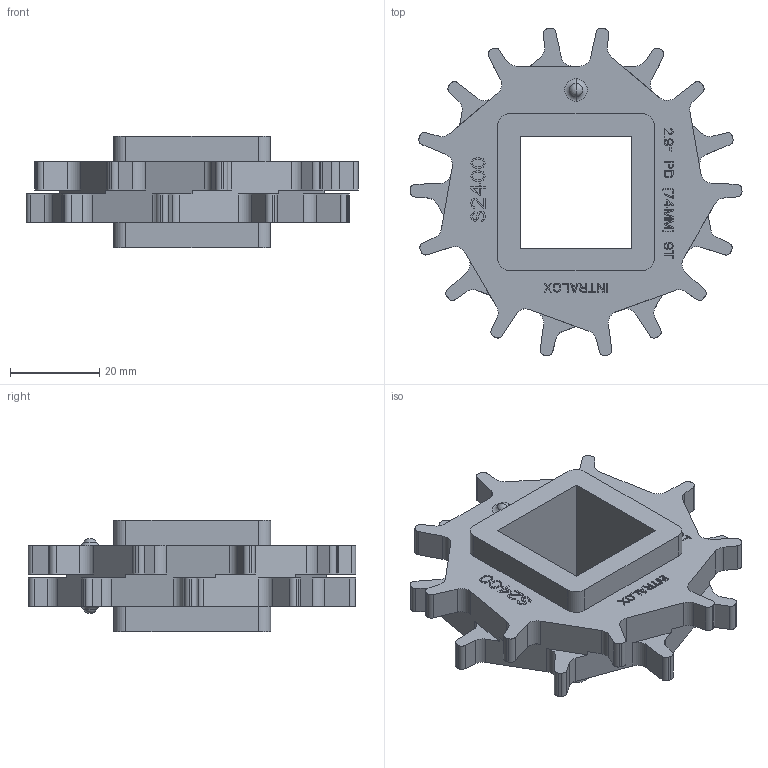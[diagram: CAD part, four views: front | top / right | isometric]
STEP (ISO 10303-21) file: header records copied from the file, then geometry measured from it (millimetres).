
FILE_DESCRIPTION((''),'2;1');
FILE_NAME('S2400_SPROCKET_29X1_25_SQ','2008-12-12T',('jmumphre'),(''),'PRO/ENGINEER BY PARAMETRIC TECHNOLOGY CORPORATION, 2008150','PRO/ENGINEER BY PARAMETRIC TECHNOLOGY CORPORATION, 2008150','');
FILE_SCHEMA(('CONFIG_CONTROL_DESIGN'));
Length unit declared in the file: inch
Products named in the file (1): S2400_SPROCKET_29X1_25_SQ
Bounding box: 74.24 x 73.23 x 24.89 mm (x, y, z)
Volume: 37500.5 mm3; surface area: 13125.2 mm2
Topology: 1 solids, 1 shells, 826 faces, 2345 edges, 1560 vertices
Faces by surface type: plane 720, cylinder 98, torus 4, sphere 4
Entity records: 26465 total; most frequent: CARTESIAN_POINT 4727, ORIENTED_EDGE 4682, DIRECTION 4205, EDGE_CURVE 2341, VECTOR 2129, LINE 2129, VERTEX_POINT 1560, AXIS2_PLACEMENT_3D 1038
